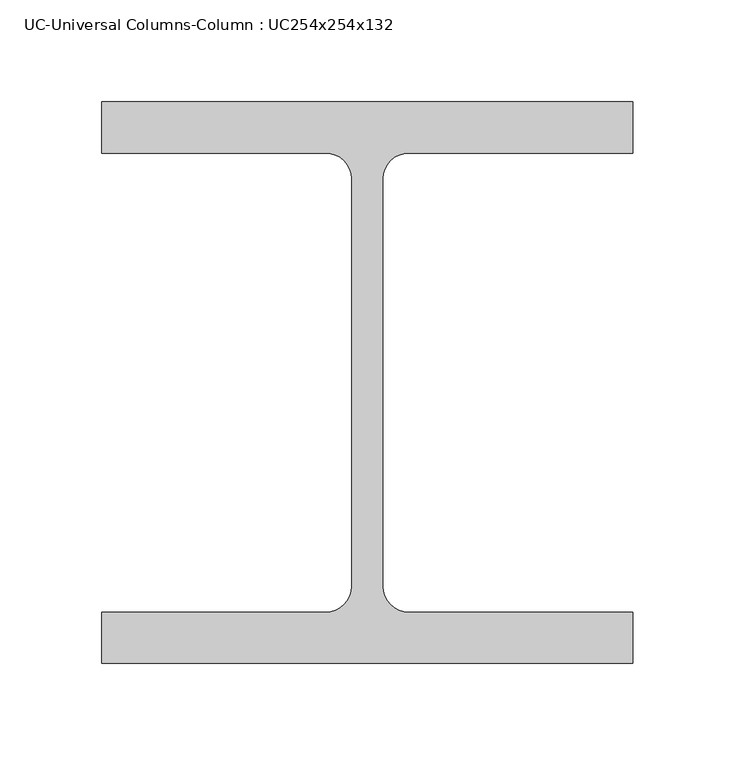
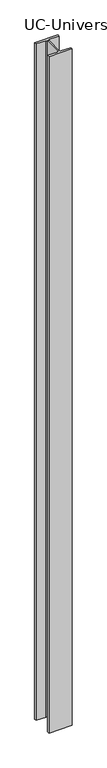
"""IFC4 building model written with IfcOpenShell, lengths in millimetres: column geometry, UC-Universal Columns-Column : UC254x254x132."""

from ifc_helpers import new_model, si_unit, point, frame, frame_2d, origin, place, context, project, spatial, polyline, circle_curve, trimmed, segment, composite_curve, outline, extrude, source, transform, mapped, element, save


def uc_universal_columns_column_uc254x254x132_a49aefed(model_context):
    return source(origin(), model_context, "Body", "SweptSolid", [
        extrude(outline(composite_curve([segment(polyline([(130.65, 138.15), (130.65, 112.85), (20.35, 112.85)]), True, "CONTINUOUS"), segment(trimmed(circle_curve(frame_2d((20.35, 100.15)), 12.7), [point((20.35, 112.85))], [point((7.65, 100.15))], True, "CARTESIAN"), True, "CONTINUOUS"), segment(polyline([(7.65, 100.15), (7.65, -100.15)]), True, "CONTINUOUS"), segment(trimmed(circle_curve(frame_2d((20.35, -100.15)), 12.7), [point((7.65, -100.15))], [point((20.35, -112.85))], True, "CARTESIAN"), True, "CONTINUOUS"), segment(polyline([(20.35, -112.85), (130.65, -112.85), (130.65, -138.15), (-130.65, -138.15), (-130.65, -112.85), (-20.35, -112.85)]), True, "CONTINUOUS"), segment(trimmed(circle_curve(frame_2d((-20.35, -100.15)), 12.7), [point((-20.35, -112.85))], [point((-7.65, -100.15))], True, "CARTESIAN"), True, "CONTINUOUS"), segment(polyline([(-7.65, -100.15), (-7.65, 100.15)]), True, "CONTINUOUS"), segment(trimmed(circle_curve(frame_2d((-20.35, 100.15)), 12.7), [point((-7.65, 100.15))], [point((-20.35, 112.85))], True, "CARTESIAN"), True, "CONTINUOUS"), segment(polyline([(-20.35, 112.85), (-130.65, 112.85), (-130.65, 138.15), (130.65, 138.15)]), True, "CONTINUOUS")], self_intersect=False)), frame((0.0, 0.0, -450.0), z_axis=(0.0, 0.0, 1.0), x_axis=(1.0, 0.0, 0.0)), (0.0, 0.0, 1.0), 8045.0),
    ])


if __name__ == "__main__":
    model = new_model("IFC4")
    model_context = context("Model", 3, world=origin())
    ifc_project = project(units=[si_unit("LENGTHUNIT", "METRE", prefix="MILLI")], contexts=[model_context])
    site = spatial("IfcSite", under=ifc_project)
    building = spatial("IfcBuilding", under=site)
    placement = place(None, origin())
    uc_universal_columns_column_uc254x254x132_shape = uc_universal_columns_column_uc254x254x132_a49aefed(model_context)
    element("IfcColumn", 1, ObjectType="UC-Universal Columns-Column : UC254x254x132", at=placement, inside=building, context=model_context, shape_type="MappedRepresentation", body=[
        mapped(uc_universal_columns_column_uc254x254x132_shape, transform((0.0, 0.0, 0.0), x_axis=(1.0, 0.0, 0.0), y_axis=(0.0, 1.0, 0.0), z_axis=(0.0, 0.0, 1.0))),
    ])
    save(model, "model.ifc")
